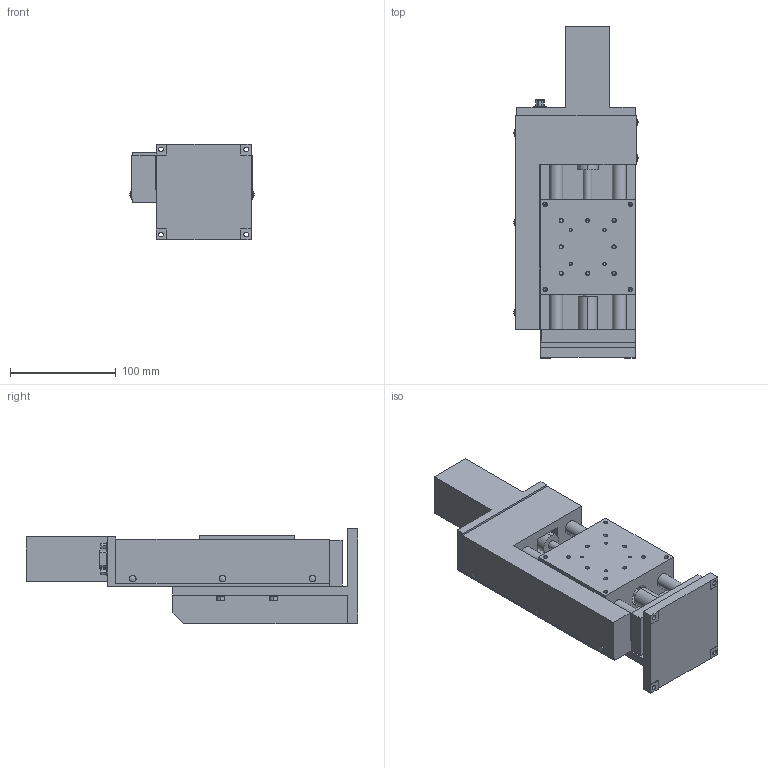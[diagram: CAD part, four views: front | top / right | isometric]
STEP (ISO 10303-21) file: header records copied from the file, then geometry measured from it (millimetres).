
FILE_DESCRIPTION (( 'STEP AP203' ), '1' );
FILE_NAME ('ALZ-906-E1P.STEP', '2008-03-11T09:25:07', ( '' ), ( '' ), 'SwSTEP 2.0', 'SolidWorks 2007', '' );
FILE_SCHEMA (( 'CONFIG_CONTROL_DESIGN' ));
Length unit declared in the file: millimetre
Products named in the file (3): ALZ-906-E1P-1_蹬怮椔; ALZ-906-E1P-2_蹬怮椔; ALZ-906-E1P
Assembly tree (2 placements, depth 2):
  ALZ-906-E1P
    ALZ-906-E1P-2_蹬怮椔
    ALZ-906-E1P-1_蹬怮椔
Bounding box: 117.65 x 314 x 90 mm (x, y, z)
Volume: 1280225.6 mm3; surface area: 232378.7 mm2
Topology: 2 solids, 8 shells, 448 faces, 1111 edges, 729 vertices
Faces by surface type: cylinder 211, plane 209, cone 23, bspline 5
Entity records: 15145 total; most frequent: CARTESIAN_POINT 3783, DIRECTION 2364, ORIENTED_EDGE 2202, EDGE_CURVE 1101, AXIS2_PLACEMENT_3D 856, VERTEX_POINT 729, VECTOR 652, LINE 652
